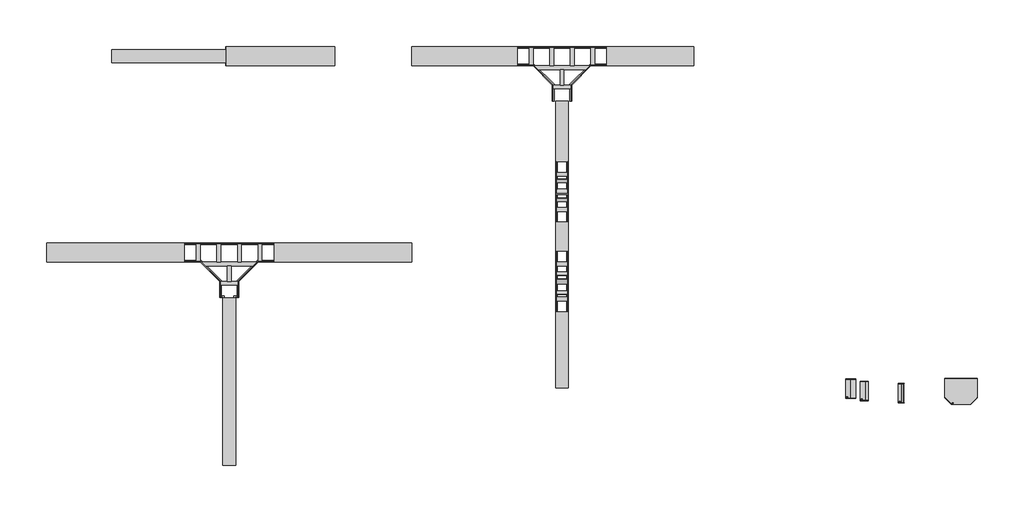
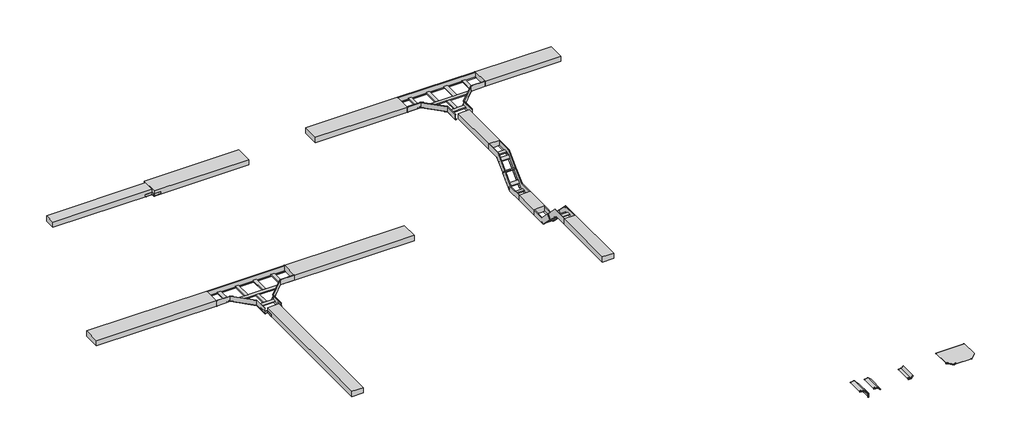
# One storey, incomplete: 14 cable carrier fittings, 12 cable carrier segments.
"""IFC4 building model written with IfcOpenShell, lengths in millimetres."""

from ifc_helpers import new_model, si_unit, frame, origin, place, context, project, spatial, polyline, outline, extrude, transform, mapped, element, save
from components import cable_carrier_fitting_e7ced22e, cable_carrier_fitting_ef3c5f1c, cable_carrier_fitting_476a71f7, cable_carrier_fitting_89958acc, cable_carrier_fitting_980f6524, cable_carrier_fitting_468b57e9, cable_carrier_fitting_1c77c83f, cable_carrier_fitting_52e53747, cable_carrier_fitting_6c7c0faa

model = new_model("IFC4")

# Units and contexts
model_context = context("Model", 3, world=origin())
ifc_project = project(units=[si_unit("LENGTHUNIT", "METRE", prefix="MILLI")], contexts=[model_context])

# Site, building, storey
site = spatial("IfcSite", under=ifc_project)
building = spatial("IfcBuilding", under=site)
storey = spatial("IfcBuildingStorey", under=building, Name="Уровень 2", Elevation=4000.0)

# Cable carrier fittings
placement = place(None, origin())
cable_carrier_fitting_shape = cable_carrier_fitting_e7ced22e(model_context)
element("IfcCableCarrierFitting", 1, ObjectType="КМ Профиль Крышка внутреннего вертикального угла KNL45 : Крышка вертикального внутреннего угла 45°", at=placement, inside=storey, context=model_context, shape_type="MappedRepresentation", body=[
    mapped(cable_carrier_fitting_shape, transform((6071.1911349, 3502.2494552, 0.0), x_axis=(1.0, 0.0, 0.0), y_axis=(0.0, 1.0, 0.0), z_axis=(0.0, 0.0, 1.0))),
])
cable_carrier_fitting_2_shape = cable_carrier_fitting_ef3c5f1c(model_context)
element("IfcCableCarrierFitting", 2, ObjectType="КМ Профиль Крышка внешнего вертикального угла KVL45 : Крышка вертикального внешнего угла 45°", at=placement, inside=storey, context=model_context, shape_type="MappedRepresentation", body=[
    mapped(cable_carrier_fitting_2_shape, transform((5479.7068308, 3539.0376443, 0.0), x_axis=(1.0, 0.0, 0.0), y_axis=(0.0, 1.0, 0.0), z_axis=(0.0, 0.0, 1.0))),
])
cable_carrier_fitting_3_shape = cable_carrier_fitting_476a71f7(model_context)
element("IfcCableCarrierFitting", 3, ObjectType="КМ Профиль Крышка внешнего вертикального угла KVL90 : Крышка вертикального внешнего угла 90°", at=placement, inside=storey, context=model_context, shape_type="MappedRepresentation", body=[
    mapped(cable_carrier_fitting_3_shape, transform((5249.5522041, 3574.1090022, 0.0), x_axis=(1.0, 0.0, 0.0), y_axis=(0.0, 1.0, 0.0), z_axis=(0.0, 0.0, 1.0))),
])
cable_carrier_fitting_4_shape = cable_carrier_fitting_89958acc(model_context)
element("IfcCableCarrierFitting", 4, ObjectType="КМ Профиль Крышка Т-отвода KTD : Крышка Т-отвода KTD", at=placement, inside=storey, context=model_context, shape_type="MappedRepresentation", body=[
    mapped(cable_carrier_fitting_4_shape, transform((7050.0923819, 3585.773216, 0.0), x_axis=(1.0, 0.0, 0.0), y_axis=(0.0, 1.0, 0.0), z_axis=(0.0, 0.0, 1.0))),
])
cable_carrier_fitting_5_shape = cable_carrier_fitting_980f6524(model_context)
element("IfcCableCarrierFitting", 5, ObjectType="КМ Профиль L Угол вертикальный внешний «Быстрый монтаж» : Угол вертикальный внешний «Быстрый монтаж»", at=placement, inside=storey, context=model_context, shape_type="MappedRepresentation", body=[
    mapped(cable_carrier_fitting_5_shape, transform((823.1790241, 6847.1799354, 4000.0), x_axis=(0.0, -1.0, 0.0), y_axis=(0.0, 0.0, -1.0), z_axis=(1.0, 0.0, 0.0))),
])
element("IfcCableCarrierFitting", 6, ObjectType="КМ Профиль L Угол вертикальный внешний «Быстрый монтаж» : Угол вертикальный внешний «Быстрый монтаж»", at=placement, inside=storey, context=model_context, shape_type="MappedRepresentation", body=[
    mapped(cable_carrier_fitting_5_shape, transform((823.1790241, 5047.1799354, 4000.0), x_axis=(0.0, -0.7071067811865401, 0.7071067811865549), y_axis=(0.0, -0.7071067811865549, -0.7071067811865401), z_axis=(1.0, 0.0, 0.0))),
])
cable_carrier_fitting_6_shape = cable_carrier_fitting_468b57e9(model_context)
element("IfcCableCarrierFitting", 7, ObjectType="КМ Профиль L Угол вертикальный внутренний «Быстрый монтаж» : Угол вертикальный внутренний «Быстрый монтаж»", at=placement, inside=storey, context=model_context, shape_type="MappedRepresentation", body=[
    mapped(cable_carrier_fitting_6_shape, transform((823.1790241, 6447.1799354, 3600.0), x_axis=(0.0, -0.7071067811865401, -0.7071067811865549), y_axis=(0.0, -0.7071067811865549, 0.7071067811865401), z_axis=(-1.0, 0.0, 0.0))),
])
element("IfcCableCarrierFitting", 8, ObjectType="КМ Профиль L Угол вертикальный внутренний «Быстрый монтаж» : Угол вертикальный внутренний «Быстрый монтаж»", at=placement, inside=storey, context=model_context, shape_type="MappedRepresentation", body=[
    mapped(cable_carrier_fitting_6_shape, transform((823.1790241, 5447.1799354, 3600.0), x_axis=(0.0, -1.0, 0.0), y_axis=(0.0, 0.0, 1.0), z_axis=(-1.0, 0.0, 0.0))),
])
cable_carrier_fitting_7_shape = cable_carrier_fitting_1c77c83f(model_context)
element("IfcCableCarrierFitting", 9, ObjectType="КМ Профиль L Т-отвод «Быстрый монтаж» : Т-отвод «Быстрый монтаж»", at=placement, inside=storey, context=model_context, shape_type="MappedRepresentation", body=[
    mapped(cable_carrier_fitting_7_shape, transform((823.1790241, 8767.1799354, 4000.0), x_axis=(1.0, 0.0, 0.0), y_axis=(0.0, 1.0, 0.0), z_axis=(0.0, 0.0, 1.0))),
])
element("IfcCableCarrierFitting", 10, ObjectType="КМ Профиль L Т-отвод «Быстрый монтаж» : Т-отвод «Быстрый монтаж»", at=placement, inside=storey, context=model_context, shape_type="MappedRepresentation", body=[
    mapped(cable_carrier_fitting_7_shape, transform((-4369.7922736, 5702.1049804, 4000.0), x_axis=(1.0, 0.0, 0.0), y_axis=(0.0, 1.0, 0.0), z_axis=(0.0, 0.0, 1.0))),
])
cable_carrier_fitting_8_shape = cable_carrier_fitting_52e53747(model_context)
element("IfcCableCarrierFitting", 11, ObjectType="КМ Профиль L Переходник для лестничного лотка LPDP  : Переходник для лестничного лотка LPDP", at=placement, inside=storey, context=model_context, shape_type="MappedRepresentation", body=[
    mapped(cable_carrier_fitting_8_shape, transform((-4421.9347466, 8918.1799354, 3971.5), x_axis=(-1.0, 0.0, 0.0), y_axis=(0.0, 0.0, 1.0), z_axis=(0.0, 1.0, 0.0))),
])
element("IfcCableCarrierFitting", 12, ObjectType="КМ Профиль L Переходник для лестничного лотка LPDP  : Переходник для лестничного лотка LPDP", at=placement, inside=storey, context=model_context, shape_type="MappedRepresentation", body=[
    mapped(cable_carrier_fitting_8_shape, transform((-4520.7922736, 4996.1049804, 3971.5), x_axis=(0.0, -1.0, 0.0), y_axis=(0.0, 0.0, 1.0), z_axis=(-1.0, 0.0, 0.0))),
])
cable_carrier_fitting_9_shape = cable_carrier_fitting_6c7c0faa(model_context)
element("IfcCableCarrierFitting", 13, ObjectType="КМ Профиль L Переходник для лестничного лотка LPDL : Переходник для лестничного лотка LPDL", at=placement, inside=storey, context=model_context, shape_type="MappedRepresentation", body=[
    mapped(cable_carrier_fitting_9_shape, transform((-4421.9347466, 8616.1799354, 3971.5), x_axis=(1.0, 0.0, 0.0), y_axis=(0.0, 0.0, 1.0), z_axis=(0.0, -1.0, 0.0))),
])
element("IfcCableCarrierFitting", 14, ObjectType="КМ Профиль L Переходник для лестничного лотка LPDL : Переходник для лестничного лотка LPDL", at=placement, inside=storey, context=model_context, shape_type="MappedRepresentation", body=[
    mapped(cable_carrier_fitting_9_shape, transform((-4218.7922736, 4996.1049804, 3971.5), x_axis=(0.0, 1.0, 0.0), y_axis=(0.0, 0.0, 1.0), z_axis=(1.0, 0.0, 0.0))),
])

# Cable carrier segments
element("IfcCableCarrierSegment", 15, ObjectType="КМ Профиль_Лоток лестничного типа «Быстрый монтаж»", at=placement, inside=storey, context=model_context, shape_type="SweptSolid", body=[
    extrude(outline(polyline([(1523.1790241, 8617.1799354), (1523.1790241, 8917.1799354), (2880.2077264, 8917.1799354), (2880.2077264, 8617.1799354), (1523.1790241, 8617.1799354)])), frame((0.0, 0.0, 3950.0), z_axis=(0.0, 0.0, 1.0), x_axis=(1.0, 0.0, 0.0)), (0.0, 0.0, 1.0), 100.0),
])
element("IfcCableCarrierSegment", 16, ObjectType="КМ Профиль_Лоток лестничного типа «Быстрый монтаж»", at=placement, inside=storey, context=model_context, shape_type="SweptSolid", body=[
    extrude(outline(polyline([(723.1790241, 8067.1799354), (923.1790241, 8067.1799354), (923.1790241, 7121.1799354), (723.1790241, 7121.1799354), (723.1790241, 8067.1799354)])), frame((0.0, 0.0, 3950.0), z_axis=(0.0, 0.0, 1.0), x_axis=(1.0, 0.0, 0.0)), (0.0, 0.0, 1.0), 100.0),
])
element("IfcCableCarrierSegment", 17, ObjectType="КМ Профиль_Лоток лестничного типа «Быстрый монтаж»", at=placement, inside=storey, context=model_context, shape_type="SweptSolid", body=[
    extrude(outline(polyline([(-1519.7922736, 8617.1799354), (-1519.7922736, 8917.1799354), (123.1790241, 8917.1799354), (123.1790241, 8617.1799354), (-1519.7922736, 8617.1799354)])), frame((0.0, 0.0, 3950.0), z_axis=(0.0, 0.0, 1.0), x_axis=(1.0, 0.0, 0.0)), (0.0, 0.0, 1.0), 100.0),
])
element("IfcCableCarrierSegment", 18, ObjectType="КМ Профиль_Лоток лестничного типа «Быстрый монтаж»", at=placement, inside=storey, context=model_context, shape_type="SweptSolid", body=[
    extrude(outline(polyline([(723.1790241, 6173.1799354), (923.1790241, 6173.1799354), (923.1790241, 5721.1799354), (723.1790241, 5721.1799354), (723.1790241, 6173.1799354)])), frame((0.0, 0.0, 3550.0), z_axis=(0.0, 0.0, 1.0), x_axis=(1.0, 0.0, 0.0)), (0.0, 0.0, 1.0), 100.0),
])
element("IfcCableCarrierSegment", 19, ObjectType="КМ Профиль_Лоток лестничного типа «Быстрый монтаж»", at=placement, inside=storey, context=model_context, shape_type="SweptSolid", body=[
    extrude(outline(polyline([(-100.0, -61.8033989), (100.0, -61.8033989), (100.0, -161.8033989), (-100.0, -161.8033989), (-100.0, -61.8033989)])), frame((823.1790241, 6719.9841349, 3714.6903165), z_axis=(0.0, 0.7071067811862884, 0.7071067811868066), x_axis=(1.0, 0.0, 0.0)), (0.0, 0.0, 1.0), 17.6854249),
])
element("IfcCableCarrierSegment", 20, ObjectType="КМ Профиль_Лоток лестничного типа «Быстрый монтаж»", at=placement, inside=storey, context=model_context, shape_type="SweptSolid", body=[
    extrude(outline(polyline([(723.1790241, 4773.1799354), (923.1790241, 4773.1799354), (923.1790241, 3587.1799354), (723.1790241, 3587.1799354), (723.1790241, 4773.1799354)])), frame((0.0, 0.0, 3950.0), z_axis=(0.0, 0.0, 1.0), x_axis=(1.0, 0.0, 0.0)), (0.0, 0.0, 1.0), 100.0),
])
element("IfcCableCarrierSegment", 21, ObjectType="КМ Профиль_Лоток лестничного типа «Быстрый монтаж»", at=placement, inside=storey, context=model_context, shape_type="SweptSolid", body=[
    extrude(outline(polyline([(0.0, -200.0), (0.0, 0.0), (17.6854249, 0.0), (17.6854249, -200.0), (0.0, -200.0)])), frame((923.1790241, 5218.0773383, 3758.391919), z_axis=(0.0, 0.7071067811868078, 0.7071067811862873), x_axis=(0.0, -0.7071067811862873, 0.7071067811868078)), (0.0, 0.0, 1.0), 100.0),
])
element("IfcCableCarrierSegment", 22, ObjectType="КМ Профиль_Лоток лестничного типа «Быстрый монтаж»", at=placement, inside=storey, context=model_context, shape_type="SweptSolid", body=[
    extrude(outline(polyline([(-2720.9347466, 8917.1799354), (-2720.9347466, 8617.1799354), (-4415.9347466, 8617.1799354), (-4415.9347466, 8917.1799354), (-2720.9347466, 8917.1799354)])), frame((0.0, 0.0, 3950.0), z_axis=(0.0, 0.0, 1.0), x_axis=(1.0, 0.0, 0.0)), (0.0, 0.0, 1.0), 100.0),
])
element("IfcCableCarrierSegment", 23, ObjectType="КМ Профиль_Лоток лестничного типа «Быстрый монтаж»", at=placement, inside=storey, context=model_context, shape_type="SweptSolid", body=[
    extrude(outline(polyline([(-4425.9347466, 8867.1799354), (-4425.9347466, 8667.1799354), (-6200.9347466, 8667.1799354), (-6200.9347466, 8867.1799354), (-4425.9347466, 8867.1799354)])), frame((0.0, 0.0, 3950.0), z_axis=(0.0, 0.0, 1.0), x_axis=(1.0, 0.0, 0.0)), (0.0, 0.0, 1.0), 100.0),
])
element("IfcCableCarrierSegment", 24, ObjectType="КМ Профиль_Лоток лестничного типа «Быстрый монтаж»", at=placement, inside=storey, context=model_context, shape_type="SweptSolid", body=[
    extrude(outline(polyline([(-5069.7922736, 5852.1049804), (-5069.7922736, 5552.1049804), (-7219.7922736, 5552.1049804), (-7219.7922736, 5852.1049804), (-5069.7922736, 5852.1049804)])), frame((0.0, 0.0, 3950.0), z_axis=(0.0, 0.0, 1.0), x_axis=(1.0, 0.0, 0.0)), (0.0, 0.0, 1.0), 100.0),
])
element("IfcCableCarrierSegment", 25, ObjectType="КМ Профиль_Лоток лестничного типа «Быстрый монтаж»", at=placement, inside=storey, context=model_context, shape_type="SweptSolid", body=[
    extrude(outline(polyline([(-4469.7922736, 4992.1049804), (-4269.7922736, 4992.1049804), (-4269.7922736, 2376.7052727), (-4469.7922736, 2376.7052727), (-4469.7922736, 4992.1049804)])), frame((0.0, 0.0, 3950.0), z_axis=(0.0, 0.0, 1.0), x_axis=(1.0, 0.0, 0.0)), (0.0, 0.0, 1.0), 100.0),
])
element("IfcCableCarrierSegment", 26, ObjectType="КМ Профиль_Лоток лестничного типа «Быстрый монтаж»", at=placement, inside=storey, context=model_context, shape_type="SweptSolid", body=[
    extrude(outline(polyline([(-1519.7922736, 5852.1049804), (-1519.7922736, 5552.1049804), (-3669.7922736, 5552.1049804), (-3669.7922736, 5852.1049804), (-1519.7922736, 5852.1049804)])), frame((0.0, 0.0, 3950.0), z_axis=(0.0, 0.0, 1.0), x_axis=(1.0, 0.0, 0.0)), (0.0, 0.0, 1.0), 100.0),
])

save(model, "model.ifc")
